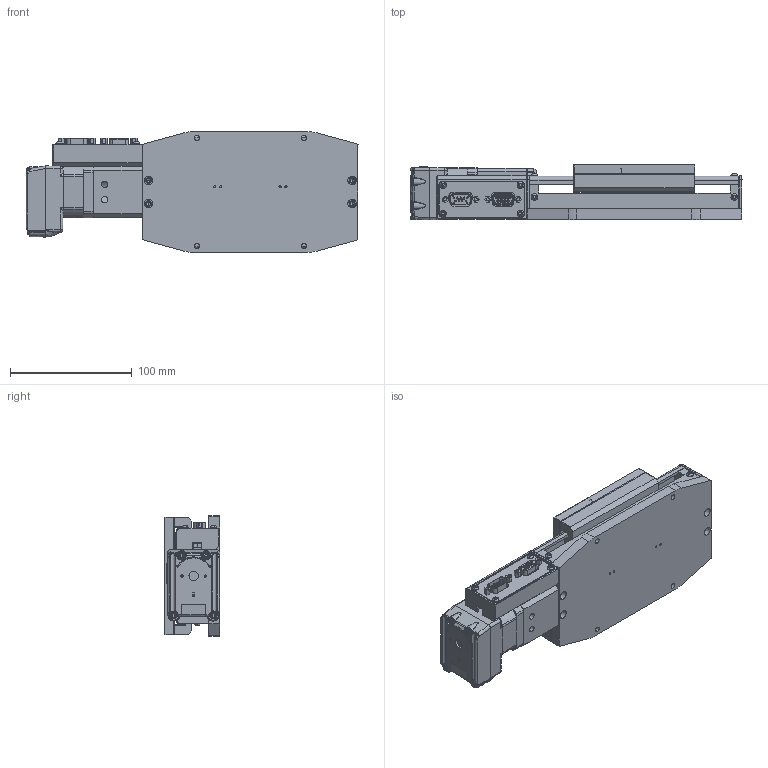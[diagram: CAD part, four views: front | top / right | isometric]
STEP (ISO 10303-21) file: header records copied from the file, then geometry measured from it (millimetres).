
FILE_DESCRIPTION (( 'STEP AP214' ), '1' );
FILE_NAME ('L3500.050-STA_v2_20180821.STEP', '2018-08-22T11:22:46', ( '' ), ( '' ), 'SwSTEP 2.0', 'SolidWorks 2017', '' );
FILE_SCHEMA (( 'AUTOMOTIVE_DESIGN' ));
Length unit declared in the file: millimetre
Products named in the file (1): L3500.050-STA_v2_20180821
Bounding box: 272.24 x 45.42 x 99.06 mm (x, y, z)
Surface area: 224857.1 mm2 (no closed solid volume)
Topology: 0 solids, 37 shells, 2811 faces, 7502 edges, 4874 vertices
Faces by surface type: plane 1306, cylinder 982, bspline 292, cone 165, torus 66
Entity records: 121511 total; most frequent: CARTESIAN_POINT 53197, ORIENTED_EDGE 14763, DIRECTION 13001, EDGE_CURVE 7393, VERTEX_POINT 4874, AXIS2_PLACEMENT_3D 4463, LINE 4075, VECTOR 4075
